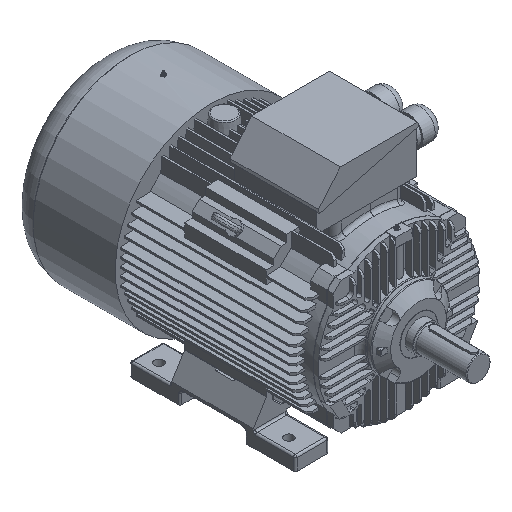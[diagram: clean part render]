
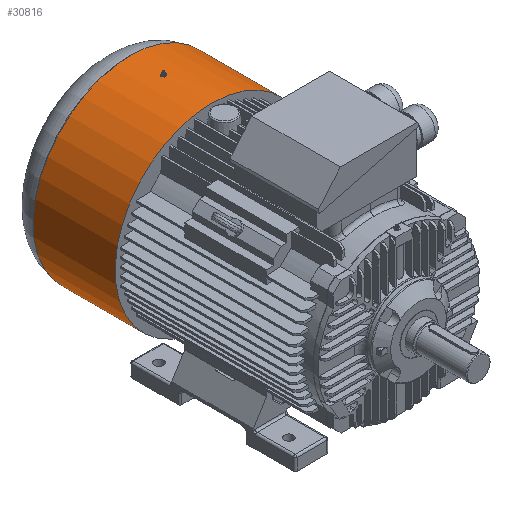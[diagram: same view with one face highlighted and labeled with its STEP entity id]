
A CAD part, isometric view. The second image highlights one B-rep face of the part: STEP entity #30816.
In plain terms, the highlighted cylindrical face has radius 260 mm (diameter 520 mm), a partial arc.
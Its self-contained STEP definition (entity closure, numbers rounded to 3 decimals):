
#160=ELLIPSE('',#32191,520.,260.);
#161=ELLIPSE('',#32192,520.,260.);
#162=ELLIPSE('',#32194,520.,260.);
#163=ELLIPSE('',#32195,520.,260.);
#229=CYLINDRICAL_SURFACE('',#32189,260.);
#921=CIRCLE('',#32135,260.);
#971=CIRCLE('',#32187,260.);
#973=CIRCLE('',#32190,260.);
#974=CIRCLE('',#32193,260.);
#2101=ORIENTED_EDGE('',*,*,#8736,.F.);
#2102=ORIENTED_EDGE('',*,*,#8737,.F.);
#2103=ORIENTED_EDGE('',*,*,#8738,.F.);
#2104=ORIENTED_EDGE('',*,*,#8739,.F.);
#2105=ORIENTED_EDGE('',*,*,#8740,.F.);
#2106=ORIENTED_EDGE('',*,*,#8741,.F.);
#2107=ORIENTED_EDGE('',*,*,#8742,.F.);
#2108=ORIENTED_EDGE('',*,*,#8734,.T.);
#2109=ORIENTED_EDGE('',*,*,#8743,.T.);
#2110=ORIENTED_EDGE('',*,*,#8545,.F.);
#8545=EDGE_CURVE('',#11863,#11864,#921,.T.);
#8734=EDGE_CURVE('',#12052,#12051,#971,.T.);
#8736=EDGE_CURVE('',#12053,#12054,#973,.T.);
#8737=EDGE_CURVE('',#12055,#12053,#160,.T.);
#8738=EDGE_CURVE('',#12056,#12055,#161,.T.);
#8739=EDGE_CURVE('',#12057,#12056,#974,.T.);
#8740=EDGE_CURVE('',#12058,#12057,#162,.T.);
#8741=EDGE_CURVE('',#12054,#12058,#163,.T.);
#8742=EDGE_CURVE('',#12052,#11863,#14126,.T.);
#8743=EDGE_CURVE('',#12051,#11864,#14127,.T.);
#11863=VERTEX_POINT('',#41049);
#11864=VERTEX_POINT('',#41051);
#12051=VERTEX_POINT('',#41462);
#12052=VERTEX_POINT('',#41464);
#12053=VERTEX_POINT('',#41468);
#12054=VERTEX_POINT('',#41469);
#12055=VERTEX_POINT('',#41471);
#12056=VERTEX_POINT('',#41473);
#12057=VERTEX_POINT('',#41475);
#12058=VERTEX_POINT('',#41477);
#14126=LINE('',#41479,#16167);
#14127=LINE('',#41480,#16168);
#16167=VECTOR('',#34698,1000.);
#16168=VECTOR('',#34699,1000.);
#18066=EDGE_LOOP('',(#2101,#2102,#2103,#2104,#2105,#2106));
#18067=EDGE_LOOP('',(#2107,#2108,#2109,#2110));
#19508=FACE_BOUND('',#18066,.T.);
#19509=FACE_BOUND('',#18067,.T.);
#30816=ADVANCED_FACE('',(#19508,#19509),#229,.T.);
#32135=AXIS2_PLACEMENT_3D('',#41050,#34440,#34441);
#32187=AXIS2_PLACEMENT_3D('',#41463,#34680,#34681);
#32189=AXIS2_PLACEMENT_3D('',#41466,#34684,#34685);
#32190=AXIS2_PLACEMENT_3D('',#41467,#34686,#34687);
#32191=AXIS2_PLACEMENT_3D('',#41470,#34688,#34689);
#32192=AXIS2_PLACEMENT_3D('',#41472,#34690,#34691);
#32193=AXIS2_PLACEMENT_3D('',#41474,#34692,#34693);
#32194=AXIS2_PLACEMENT_3D('',#41476,#34694,#34695);
#32195=AXIS2_PLACEMENT_3D('',#41478,#34696,#34697);
#34440=DIRECTION('',(0.,-1.,0.));
#34441=DIRECTION('',(1.,0.,0.));
#34680=DIRECTION('',(0.,-1.,0.));
#34681=DIRECTION('',(0.,0.,1.));
#34684=DIRECTION('',(0.,-1.,0.));
#34685=DIRECTION('',(0.,0.,1.));
#34686=DIRECTION('',(0.,1.,0.));
#34687=DIRECTION('',(0.,0.,1.));
#34688=DIRECTION('',(0.866,0.5,0.));
#34689=DIRECTION('',(0.5,-0.866,0.));
#34690=DIRECTION('',(0.866,-0.5,0.));
#34691=DIRECTION('',(-0.5,-0.866,0.));
#34692=DIRECTION('',(0.,-1.,0.));
#34693=DIRECTION('',(0.,0.,-1.));
#34694=DIRECTION('',(-0.866,-0.5,0.));
#34695=DIRECTION('',(0.5,-0.866,0.));
#34696=DIRECTION('',(-0.866,0.5,0.));
#34697=DIRECTION('',(-0.5,-0.866,0.));
#34698=DIRECTION('',(0.,-1.,0.));
#34699=DIRECTION('',(0.,-1.,0.));
#41049=CARTESIAN_POINT('',(105.318,488.,-237.714));
#41050=CARTESIAN_POINT('',(0.,488.,0.));
#41051=CARTESIAN_POINT('',(-105.318,488.,-237.714));
#41462=CARTESIAN_POINT('',(-105.318,709.,-237.714));
#41463=CARTESIAN_POINT('',(0.,709.,0.));
#41464=CARTESIAN_POINT('',(105.318,709.,-237.714));
#41466=CARTESIAN_POINT('',(0.,810.001,0.));
#41467=CARTESIAN_POINT('',(0.,612.5,0.));
#41468=CARTESIAN_POINT('',(-3.175,612.5,259.981));
#41469=CARTESIAN_POINT('',(3.175,612.5,259.981));
#41470=CARTESIAN_POINT('',(0.,607.,0.));
#41471=CARTESIAN_POINT('',(-6.351,618.,259.922));
#41472=CARTESIAN_POINT('',(0.,629.,0.));
#41473=CARTESIAN_POINT('',(-3.175,623.5,259.981));
#41474=CARTESIAN_POINT('',(0.,623.5,0.));
#41475=CARTESIAN_POINT('',(3.175,623.5,259.981));
#41476=CARTESIAN_POINT('',(0.,629.,0.));
#41477=CARTESIAN_POINT('',(6.351,618.,259.922));
#41478=CARTESIAN_POINT('',(0.,607.,0.));
#41479=CARTESIAN_POINT('',(105.318,810.001,-237.714));
#41480=CARTESIAN_POINT('',(-105.318,1153.949,-237.714));
